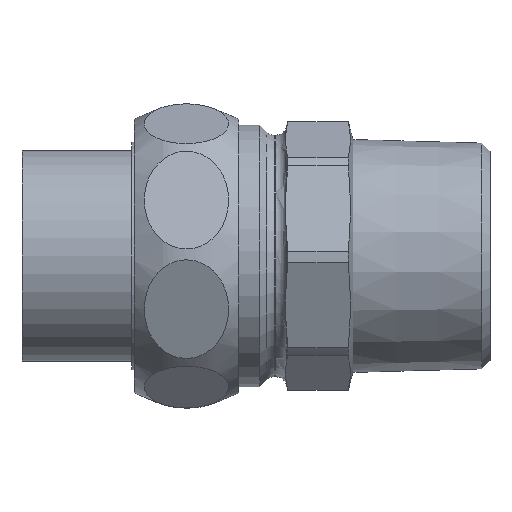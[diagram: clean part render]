
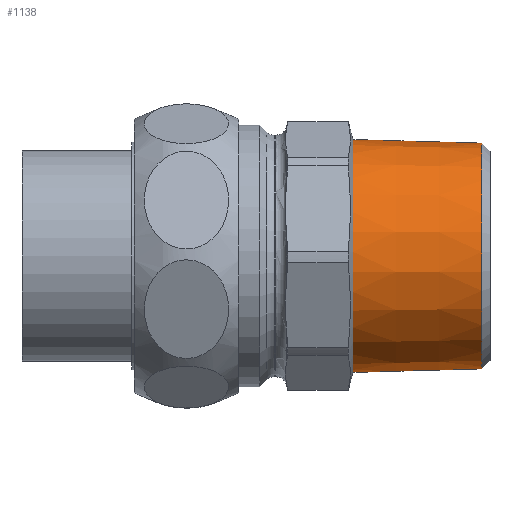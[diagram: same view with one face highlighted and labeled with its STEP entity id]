
A CAD part, front view. The second image highlights one B-rep face of the part: STEP entity #1138.
In plain terms, the highlighted conical face has half-angle 1.57 degrees and reference radius 20.902 mm.
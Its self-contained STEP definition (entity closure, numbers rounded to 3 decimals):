
#80=CONICAL_SURFACE('',#1356,20.903,0.027);
#111=LINE('',#2739,#145);
#145=VECTOR('',#1646,20.903);
#243=FACE_OUTER_BOUND('',#322,.T.);
#322=EDGE_LOOP('',(#934,#935,#936,#937,#938,#939));
#418=CIRCLE('',#1354,20.601);
#419=CIRCLE('',#1355,20.601);
#420=CIRCLE('',#1357,21.245);
#421=CIRCLE('',#1358,21.245);
#532=VERTEX_POINT('',#2732);
#533=VERTEX_POINT('',#2734);
#534=VERTEX_POINT('',#2738);
#535=VERTEX_POINT('',#2740);
#680=EDGE_CURVE('',#532,#533,#418,.T.);
#681=EDGE_CURVE('',#533,#532,#419,.T.);
#682=EDGE_CURVE('',#533,#534,#111,.T.);
#683=EDGE_CURVE('',#534,#535,#420,.T.);
#684=EDGE_CURVE('',#535,#534,#421,.T.);
#934=ORIENTED_EDGE('',*,*,#680,.F.);
#935=ORIENTED_EDGE('',*,*,#681,.F.);
#936=ORIENTED_EDGE('',*,*,#682,.T.);
#937=ORIENTED_EDGE('',*,*,#683,.T.);
#938=ORIENTED_EDGE('',*,*,#684,.T.);
#939=ORIENTED_EDGE('',*,*,#682,.F.);
#1138=ADVANCED_FACE('',(#243),#80,.T.);
#1354=AXIS2_PLACEMENT_3D('',#2735,#1640,#1641);
#1355=AXIS2_PLACEMENT_3D('',#2736,#1642,#1643);
#1356=AXIS2_PLACEMENT_3D('',#2737,#1644,#1645);
#1357=AXIS2_PLACEMENT_3D('',#2741,#1647,#1648);
#1358=AXIS2_PLACEMENT_3D('',#2742,#1649,#1650);
#1640=DIRECTION('center_axis',(1.,0.,0.));
#1641=DIRECTION('ref_axis',(0.,-1.,0.));
#1642=DIRECTION('center_axis',(1.,0.,0.));
#1643=DIRECTION('ref_axis',(0.,-1.,0.));
#1644=DIRECTION('center_axis',(-1.,0.,0.));
#1645=DIRECTION('ref_axis',(0.,1.,0.));
#1646=DIRECTION('',(-1.,-0.027,0.));
#1647=DIRECTION('center_axis',(1.,0.,0.));
#1648=DIRECTION('ref_axis',(0.,1.,0.));
#1649=DIRECTION('center_axis',(1.,0.,0.));
#1650=DIRECTION('ref_axis',(0.,1.,0.));
#2732=CARTESIAN_POINT('',(53.501,20.601,0.));
#2734=CARTESIAN_POINT('',(53.501,-20.601,0.));
#2735=CARTESIAN_POINT('Origin',(53.501,0.,0.));
#2736=CARTESIAN_POINT('Origin',(53.501,0.,0.));
#2737=CARTESIAN_POINT('Origin',(42.5,0.,0.));
#2738=CARTESIAN_POINT('',(30.,-21.245,0.));
#2739=CARTESIAN_POINT('',(42.5,-20.903,0.));
#2740=CARTESIAN_POINT('',(30.,21.245,0.));
#2741=CARTESIAN_POINT('Origin',(30.,0.,0.));
#2742=CARTESIAN_POINT('Origin',(30.,0.,0.));
